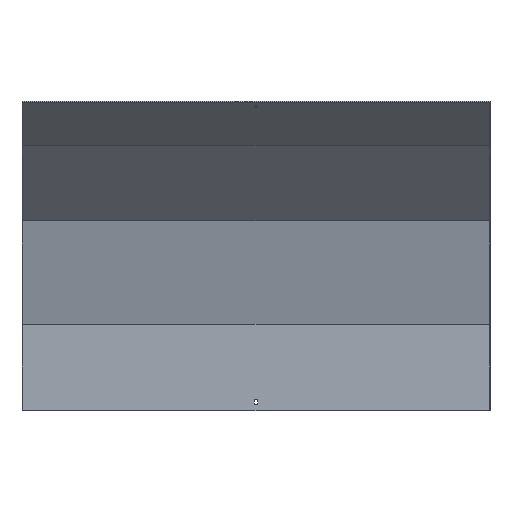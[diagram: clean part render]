
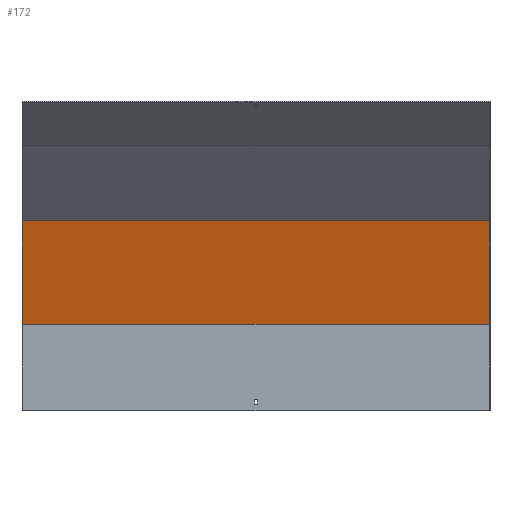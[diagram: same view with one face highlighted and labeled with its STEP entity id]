
A CAD part, front view. The second image highlights one B-rep face of the part: STEP entity #172.
In plain terms, the highlighted planar face has unit normal (0, -0.966, -0.259).
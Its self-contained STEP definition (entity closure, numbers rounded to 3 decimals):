
#10 = CARTESIAN_POINT ( 'NONE',  ( -450., 58.87, 15.774 ) ) ;
#32 = DIRECTION ( 'NONE',  ( 0., -0.966, -0.259 ) ) ;
#56 = LINE ( 'NONE', #363, #587 ) ;
#58 = EDGE_CURVE ( 'NONE', #964, #580, #605, .T. ) ;
#88 = CARTESIAN_POINT ( 'NONE',  ( 450., -34.918, 365.796 ) ) ;
#91 = EDGE_LOOP ( 'NONE', ( #571, #320, #794, #958 ) ) ;
#133 = VERTEX_POINT ( 'NONE', #88 ) ;
#172 = ADVANCED_FACE ( 'NONE', ( #495 ), #793, .T. ) ;
#210 = VECTOR ( 'NONE', #599, 1000. ) ;
#239 = CARTESIAN_POINT ( 'NONE',  ( 451.5, 18.5, 166.436 ) ) ;
#244 = CARTESIAN_POINT ( 'NONE',  ( 451.5, -34.918, 365.796 ) ) ;
#268 = DIRECTION ( 'NONE',  ( 0., 0.259, -0.966 ) ) ;
#279 = VERTEX_POINT ( 'NONE', #868 ) ;
#287 = EDGE_CURVE ( 'NONE', #279, #133, #56, .T. ) ;
#292 = LINE ( 'NONE', #239, #210 ) ;
#320 = ORIENTED_EDGE ( 'NONE', *, *, #460, .F. ) ;
#363 = CARTESIAN_POINT ( 'NONE',  ( 450., 58.87, 15.774 ) ) ;
#460 = EDGE_CURVE ( 'NONE', #279, #964, #292, .T. ) ;
#485 = EDGE_CURVE ( 'NONE', #133, #580, #839, .T. ) ;
#495 = FACE_OUTER_BOUND ( 'NONE', #91, .T. ) ;
#571 = ORIENTED_EDGE ( 'NONE', *, *, #58, .F. ) ;
#580 = VERTEX_POINT ( 'NONE', #871 ) ;
#587 = VECTOR ( 'NONE', #597, 1000. ) ;
#597 = DIRECTION ( 'NONE',  ( 0., -0.259, 0.966 ) ) ;
#599 = DIRECTION ( 'NONE',  ( -1., 0., 0. ) ) ;
#605 = LINE ( 'NONE', #10, #893 ) ;
#626 = CARTESIAN_POINT ( 'NONE',  ( 451.5, 17.87, 168.788 ) ) ;
#678 = AXIS2_PLACEMENT_3D ( 'NONE', #626, #32, #268 ) ;
#687 = DIRECTION ( 'NONE',  ( -1., 0., 0. ) ) ;
#793 = PLANE ( 'NONE',  #678 ) ;
#794 = ORIENTED_EDGE ( 'NONE', *, *, #287, .T. ) ;
#805 = VECTOR ( 'NONE', #687, 1000. ) ;
#839 = LINE ( 'NONE', #244, #805 ) ;
#848 = CARTESIAN_POINT ( 'NONE',  ( -450., 18.5, 166.436 ) ) ;
#868 = CARTESIAN_POINT ( 'NONE',  ( 450., 18.5, 166.436 ) ) ;
#871 = CARTESIAN_POINT ( 'NONE',  ( -450., -34.918, 365.796 ) ) ;
#893 = VECTOR ( 'NONE', #898, 1000. ) ;
#898 = DIRECTION ( 'NONE',  ( 0., -0.259, 0.966 ) ) ;
#958 = ORIENTED_EDGE ( 'NONE', *, *, #485, .T. ) ;
#964 = VERTEX_POINT ( 'NONE', #848 ) ;
